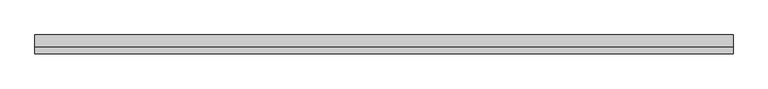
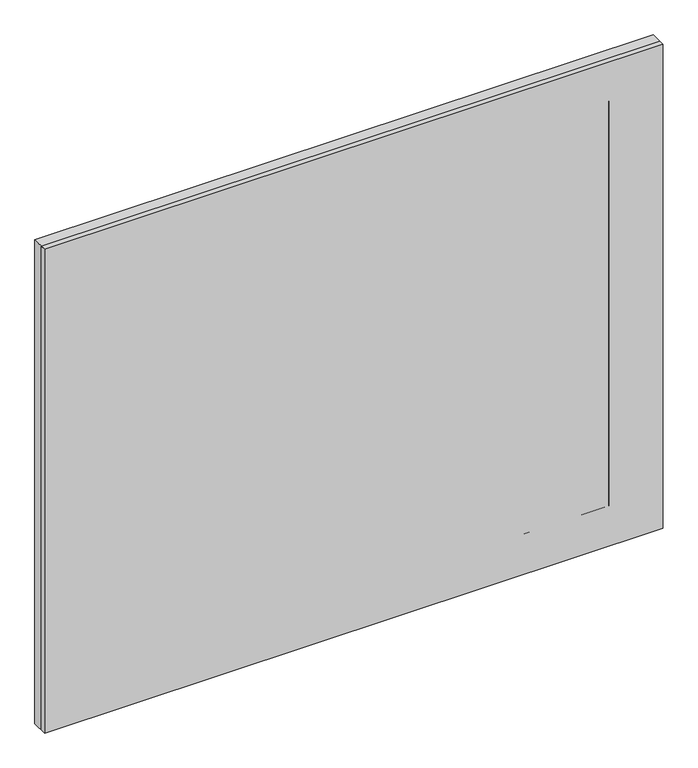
"""IFC4 building model written with IfcOpenShell, lengths in millimetres: proxy geometry, Art_Piece_Van_Gogh_5866 : Art_Piece_Van_Gogh_5866."""

from ifc_helpers import new_model, si_unit, frame, origin, place, context, project, spatial, polyline, outline, extrude, source, transform, mapped, element, save


def generic_models_46b82326(model_context):
    return source(origin(), model_context, "Body", "SweptSolid", [
        extrude(outline(polyline([(914.4, 61.9125), (-499.3030689, 61.9125), (-499.3030689, 74.6125), (914.4, 74.6125), (914.4, 61.9125)])), frame((0.0, 0.0, 2066.6004226), z_axis=(0.0, 0.0, 1.0), x_axis=(1.0, 0.0, 0.0)), (0.0, 0.0, 1.0), 1168.4),
        extrude(outline(polyline([(3235.0004226, -499.3030689), (2066.6004226, -499.3030689), (2066.6004226, 914.4), (3235.0004226, 914.4), (3235.0004226, -499.3030689)]), holes=[polyline([(2164.2956246, 790.4233831), (2164.2956246, -391.3294516), (3140.9508599, -391.3294516), (3140.9508599, 790.4233831), (2164.2956246, 790.4233831)])]), frame((0.0, 61.9125, 0.0), z_axis=(0.0, 1.0, 0.0), x_axis=(0.0, 0.0, 1.0)), (0.0, 0.0, 1.0), 38.1),
    ])


if __name__ == "__main__":
    model = new_model("IFC4")
    model_context = context("Model", 3, world=origin())
    ifc_project = project(units=[si_unit("LENGTHUNIT", "METRE", prefix="MILLI")], contexts=[model_context])
    site = spatial("IfcSite", under=ifc_project)
    building = spatial("IfcBuilding", under=site)
    placement = place(None, origin())
    generic_models_shape = generic_models_46b82326(model_context)
    element("IfcBuildingElementProxy", 1, Name="Art_Piece_Van_Gogh_5866 : Art_Piece_Van_Gogh_5866", ObjectType="Art_Piece_Van_Gogh_5866 : Art_Piece_Van_Gogh_5866", at=placement, inside=building, context=model_context, shape_type="MappedRepresentation", body=[
        mapped(generic_models_shape, transform((0.0, 0.0, 0.0), x_axis=(1.0, 0.0, 0.0), y_axis=(0.0, 1.0, 0.0), z_axis=(0.0, 0.0, 1.0))),
    ])
    save(model, "model.ifc")
